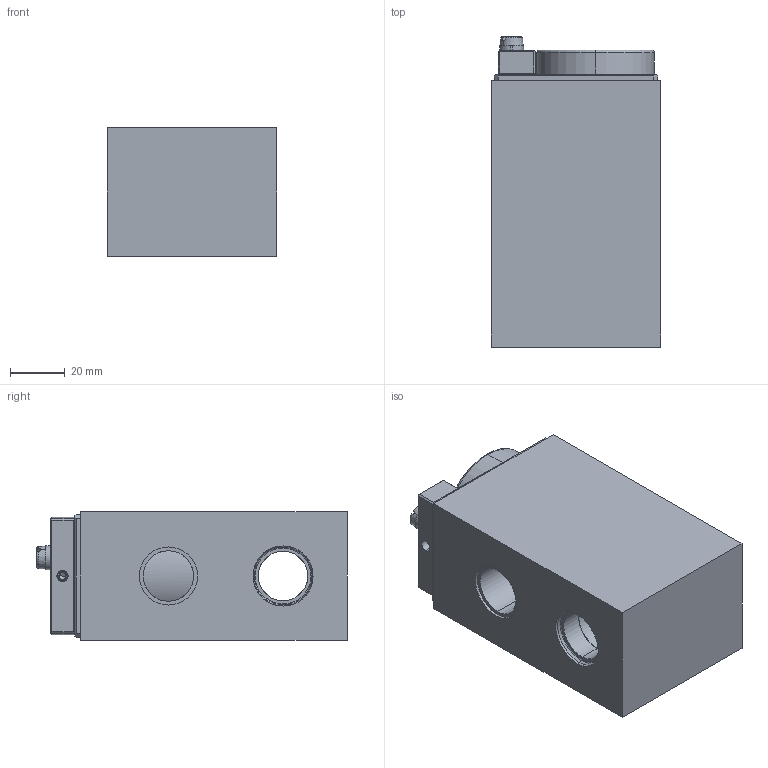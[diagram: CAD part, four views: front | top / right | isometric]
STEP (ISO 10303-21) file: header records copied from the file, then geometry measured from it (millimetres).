
FILE_DESCRIPTION (( 'STEP AP214' ), '1' );
FILE_NAME ('MKY45_18x60-K9.STEP', '2019-06-25T09:27:11', ( '' ), ( '' ), 'SwSTEP 2.0', 'SolidWorks 2018', '' );
FILE_SCHEMA (( 'AUTOMOTIVE_DESIGN' ));
Length unit declared in the file: millimetre
Products named in the file (1): MKY45_18x60-K9
Bounding box: 62 x 113.7 x 47 mm (x, y, z)
Volume: 284459.4 mm3; surface area: 39127.3 mm2
Topology: 6 solids, 10 shells, 332 faces, 794 edges, 497 vertices
Faces by surface type: plane 193, cylinder 85, cone 38, torus 16
Entity records: 13407 total; most frequent: CARTESIAN_POINT 1945, DIRECTION 1658, ORIENTED_EDGE 1564, EDGE_CURVE 782, AXIS2_PLACEMENT_3D 583, VERTEX_POINT 497, VECTOR 492, LINE 492
